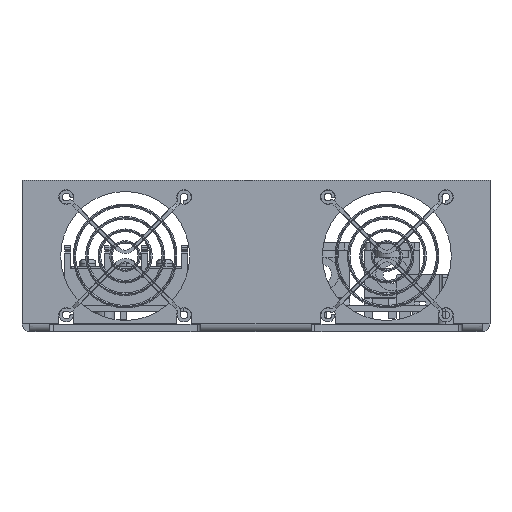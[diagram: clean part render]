
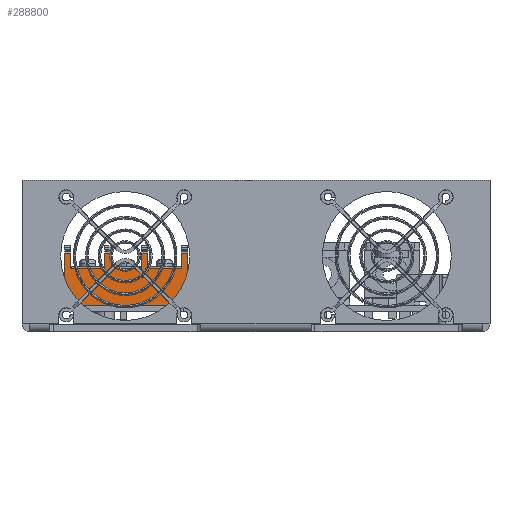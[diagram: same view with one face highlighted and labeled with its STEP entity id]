
A CAD part, front view. The second image highlights one B-rep face of the part: STEP entity #288800.
In plain terms, the highlighted planar face has unit normal (0, -1, 0.018).
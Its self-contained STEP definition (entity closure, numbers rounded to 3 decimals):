
#159820=CARTESIAN_POINT('',(221.558,330.943,
8.1));
#159830=VERTEX_POINT('',#159820);
#159980=CARTESIAN_POINT('',(188.11,330.943,
8.1));
#159990=VERTEX_POINT('',#159980);
#160020=CARTESIAN_POINT('',(188.11,330.943,
8.1));
#160030=DIRECTION('',(1.,0.,0.));
#160040=VECTOR('',#160030,1.);
#160050=LINE('',#160020,#160040);
#160060=EDGE_CURVE('',#159990,#159830,#160050,.T.);
#287540=CARTESIAN_POINT('',(221.276,330.934,
7.582));
#287550=DIRECTION('',(0.,-1.,
0.017));
#287560=DIRECTION('',(-1.,0.,0.));
#287570=AXIS2_PLACEMENT_3D('',#287540,#287550,#287560);
#287580=PLANE('',#287570);
#287590=CARTESIAN_POINT('',(188.11,330.943,
8.1));
#287600=DIRECTION('',(0.,0.017,1.));
#287610=VECTOR('',#287600,1.);
#287620=LINE('',#287590,#287610);
#287630=CARTESIAN_POINT('',(188.11,331.191,
22.304));
#287640=VERTEX_POINT('',#287630);
#287650=EDGE_CURVE('',#159990,#287640,#287620,.T.);
#287660=ORIENTED_EDGE('',*,*,#287650,.F.);
#287670=CARTESIAN_POINT('',(189.786,331.191,
22.304));
#287680=DIRECTION('',(-1.,0.,0.));
#287690=VECTOR('',#287680,1.);
#287700=LINE('',#287670,#287690);
#287710=CARTESIAN_POINT('',(189.786,331.191,
22.304));
#287720=VERTEX_POINT('',#287710);
#287730=EDGE_CURVE('',#287720,#287640,#287700,.T.);
#287740=ORIENTED_EDGE('',*,*,#287730,.T.);
#287750=CARTESIAN_POINT('',(189.786,331.115,
17.984));
#287760=DIRECTION('',(0.,0.017,1.));
#287770=VECTOR('',#287760,1.);
#287780=LINE('',#287750,#287770);
#287790=CARTESIAN_POINT('',(189.786,331.115,
17.984));
#287800=VERTEX_POINT('',#287790);
#287810=EDGE_CURVE('',#287800,#287720,#287780,.T.);
#287820=ORIENTED_EDGE('',*,*,#287810,.T.);
#287830=CARTESIAN_POINT('',(189.786,331.115,
17.984));
#287840=DIRECTION('',(1.,0.,0.));
#287850=VECTOR('',#287840,1.);
#287860=LINE('',#287830,#287850);
#287870=CARTESIAN_POINT('',(198.96,331.115,
17.984));
#287880=VERTEX_POINT('',#287870);
#287890=EDGE_CURVE('',#287800,#287880,#287860,.T.);
#287900=ORIENTED_EDGE('',*,*,#287890,.F.);
#287910=CARTESIAN_POINT('',(198.96,331.115,
17.984));
#287920=DIRECTION('',(0.,0.017,1.));
#287930=VECTOR('',#287920,1.);
#287940=LINE('',#287910,#287930);
#287950=CARTESIAN_POINT('',(198.96,331.191,
22.304));
#287960=VERTEX_POINT('',#287950);
#287970=EDGE_CURVE('',#287880,#287960,#287940,.T.);
#287980=ORIENTED_EDGE('',*,*,#287970,.F.);
#287990=CARTESIAN_POINT('',(200.731,331.191,
22.304));
#288000=DIRECTION('',(-1.,0.,0.));
#288010=VECTOR('',#288000,1.);
#288020=LINE('',#287990,#288010);
#288030=CARTESIAN_POINT('',(200.731,331.191,
22.304));
#288040=VERTEX_POINT('',#288030);
#288050=EDGE_CURVE('',#288040,#287960,#288020,.T.);
#288060=ORIENTED_EDGE('',*,*,#288050,.T.);
#288070=CARTESIAN_POINT('',(200.731,331.191,
22.304));
#288080=DIRECTION('',(0.,-0.017,-1.));
#288090=VECTOR('',#288080,1.);
#288100=LINE('',#288070,#288090);
#288110=CARTESIAN_POINT('',(200.731,331.115,
17.984));
#288120=VERTEX_POINT('',#288110);
#288130=EDGE_CURVE('',#288040,#288120,#288100,.T.);
#288140=ORIENTED_EDGE('',*,*,#288130,.F.);
#288150=CARTESIAN_POINT('',(200.731,331.115,
17.984));
#288160=DIRECTION('',(1.,0.,0.));
#288170=VECTOR('',#288160,1.);
#288180=LINE('',#288150,#288170);
#288190=CARTESIAN_POINT('',(208.842,331.115,
17.984));
#288200=VERTEX_POINT('',#288190);
#288210=EDGE_CURVE('',#288120,#288200,#288180,.T.);
#288220=ORIENTED_EDGE('',*,*,#288210,.F.);
#288230=CARTESIAN_POINT('',(208.842,331.115,
17.984));
#288240=DIRECTION('',(0.,0.017,1.));
#288250=VECTOR('',#288240,1.);
#288260=LINE('',#288230,#288250);
#288270=CARTESIAN_POINT('',(208.842,331.191,
22.304));
#288280=VERTEX_POINT('',#288270);
#288290=EDGE_CURVE('',#288200,#288280,#288260,.T.);
#288300=ORIENTED_EDGE('',*,*,#288290,.F.);
#288310=CARTESIAN_POINT('',(210.645,331.191,
22.304));
#288320=DIRECTION('',(-1.,0.,0.));
#288330=VECTOR('',#288320,1.);
#288340=LINE('',#288310,#288330);
#288350=CARTESIAN_POINT('',(210.645,331.191,
22.304));
#288360=VERTEX_POINT('',#288350);
#288370=EDGE_CURVE('',#288360,#288280,#288340,.T.);
#288380=ORIENTED_EDGE('',*,*,#288370,.T.);
#288390=CARTESIAN_POINT('',(210.645,331.191,
22.304));
#288400=DIRECTION('',(0.,-0.017,-1.));
#288410=VECTOR('',#288400,1.);
#288420=LINE('',#288390,#288410);
#288430=CARTESIAN_POINT('',(210.645,331.115,
17.984));
#288440=VERTEX_POINT('',#288430);
#288450=EDGE_CURVE('',#288360,#288440,#288420,.T.);
#288460=ORIENTED_EDGE('',*,*,#288450,.F.);
#288470=CARTESIAN_POINT('',(210.645,331.115,
17.984));
#288480=DIRECTION('',(1.,0.,0.));
#288490=VECTOR('',#288480,1.);
#288500=LINE('',#288470,#288490);
#288510=CARTESIAN_POINT('',(219.756,331.115,
17.984));
#288520=VERTEX_POINT('',#288510);
#288530=EDGE_CURVE('',#288440,#288520,#288500,.T.);
#288540=ORIENTED_EDGE('',*,*,#288530,.F.);
#288550=CARTESIAN_POINT('',(219.756,331.115,
17.984));
#288560=DIRECTION('',(0.,0.017,1.));
#288570=VECTOR('',#288560,1.);
#288580=LINE('',#288550,#288570);
#288590=CARTESIAN_POINT('',(219.756,331.191,
22.304));
#288600=VERTEX_POINT('',#288590);
#288610=EDGE_CURVE('',#288520,#288600,#288580,.T.);
#288620=ORIENTED_EDGE('',*,*,#288610,.F.);
#288630=CARTESIAN_POINT('',(221.558,331.191,
22.304));
#288640=DIRECTION('',(-1.,0.,0.));
#288650=VECTOR('',#288640,1.);
#288660=LINE('',#288630,#288650);
#288670=CARTESIAN_POINT('',(221.558,331.191,
22.304));
#288680=VERTEX_POINT('',#288670);
#288690=EDGE_CURVE('',#288680,#288600,#288660,.T.);
#288700=ORIENTED_EDGE('',*,*,#288690,.T.);
#288710=CARTESIAN_POINT('',(221.558,331.191,
22.304));
#288720=DIRECTION('',(0.,-0.017,-1.));
#288730=VECTOR('',#288720,1.);
#288740=LINE('',#288710,#288730);
#288750=EDGE_CURVE('',#288680,#159830,#288740,.T.);
#288760=ORIENTED_EDGE('',*,*,#288750,.F.);
#288770=ORIENTED_EDGE('',*,*,#160060,.T.);
#288780=EDGE_LOOP('',(#288770,#288760,#288700,#288620,#288540,#288460,
#288380,#288300,#288220,#288140,#288060,#287980,#287900,#287820,#287740,
#287660));
#288790=FACE_OUTER_BOUND('',#288780,.T.);
#288800=ADVANCED_FACE('',(#288790),#287580,.T.);
